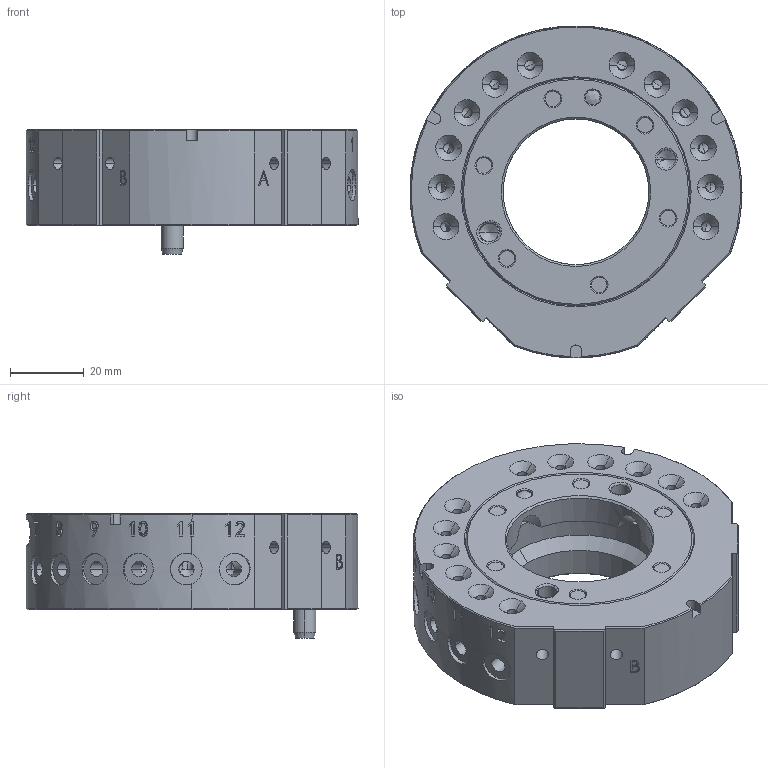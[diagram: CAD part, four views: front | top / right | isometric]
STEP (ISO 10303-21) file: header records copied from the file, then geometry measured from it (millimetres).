
FILE_DESCRIPTION (( 'STEP AP203' ), '1' );
FILE_NAME ('QCA-25G.STEP', '2024-03-19T08:00:07', ( '微软用户' ), ( '微软中国' ), 'SwSTEP 2.0', 'SolidWorks 2018', '' );
FILE_SCHEMA (( 'CONFIG_CONTROL_DESIGN' ));
Length unit declared in the file: millimetre
Products named in the file (1): QCA-25G
Bounding box: 90 x 90 x 33.76 mm (x, y, z)
Volume: 118676.5 mm3; surface area: 32192.2 mm2
Topology: 1 solids, 8 shells, 1545 faces, 3493 edges, 1989 vertices
Faces by surface type: cone 719, cylinder 473, plane 290, bspline 63
Entity records: 48573 total; most frequent: CARTESIAN_POINT 14049, DIRECTION 7646, ORIENTED_EDGE 6882, EDGE_CURVE 3441, AXIS2_PLACEMENT_3D 2970, VERTEX_POINT 1989, VECTOR 1706, LINE 1706
